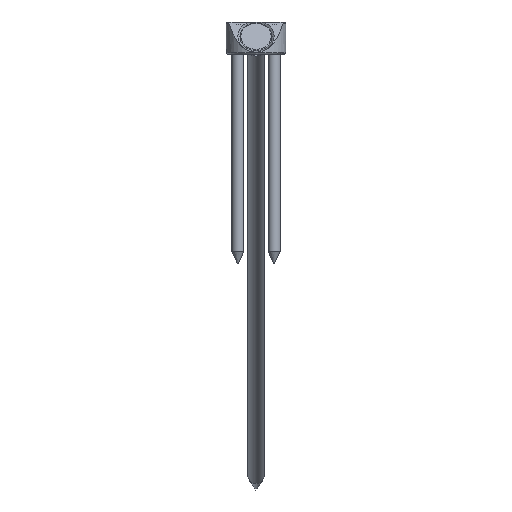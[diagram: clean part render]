
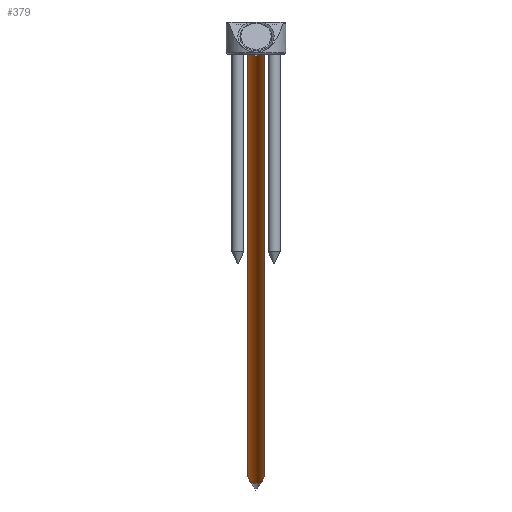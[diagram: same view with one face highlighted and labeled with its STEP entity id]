
A CAD part, front view. The second image highlights one B-rep face of the part: STEP entity #379.
In plain terms, the highlighted cylindrical face has radius 4 mm (diameter 8 mm), a full revolution.
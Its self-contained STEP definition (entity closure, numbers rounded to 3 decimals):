
#60=CYLINDRICAL_SURFACE('',#461,4.);
#150=ORIENTED_EDGE('',*,*,#191,.T.);
#151=ORIENTED_EDGE('',*,*,#190,.F.);
#190=EDGE_CURVE('',#222,#222,#250,.T.);
#191=EDGE_CURVE('',#223,#223,#251,.T.);
#222=VERTEX_POINT('',#724);
#223=VERTEX_POINT('',#727);
#250=CIRCLE('',#460,4.);
#251=CIRCLE('',#462,4.);
#296=EDGE_LOOP('',(#150));
#297=EDGE_LOOP('',(#151));
#343=FACE_BOUND('',#296,.T.);
#344=FACE_BOUND('',#297,.T.);
#379=ADVANCED_FACE('',(#343,#344),#60,.T.);
#460=AXIS2_PLACEMENT_3D('',#723,#581,#582);
#461=AXIS2_PLACEMENT_3D('',#725,#583,#584);
#462=AXIS2_PLACEMENT_3D('',#726,#585,#586);
#581=DIRECTION('',(0.,0.,1.));
#582=DIRECTION('',(1.,0.,0.));
#583=DIRECTION('',(0.,0.,1.));
#584=DIRECTION('',(1.,0.,0.));
#585=DIRECTION('',(0.,0.,1.));
#586=DIRECTION('',(1.,0.,0.));
#723=CARTESIAN_POINT('',(0.,0.,36.591));
#724=CARTESIAN_POINT('',(4.,0.,36.591));
#725=CARTESIAN_POINT('',(0.,0.,49.205));
#726=CARTESIAN_POINT('',(0.,0.,-387.379));
#727=CARTESIAN_POINT('',(4.,0.,-387.379));
